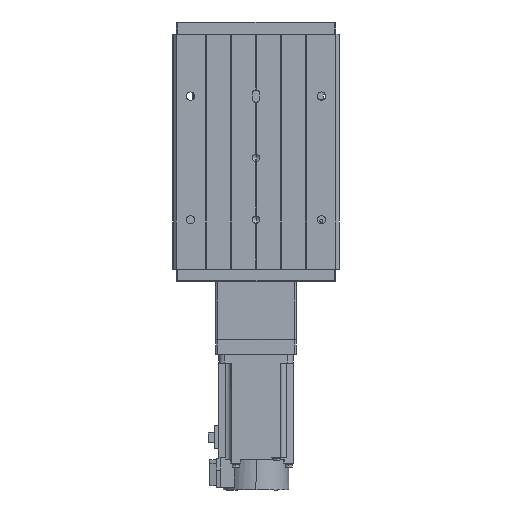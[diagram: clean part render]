
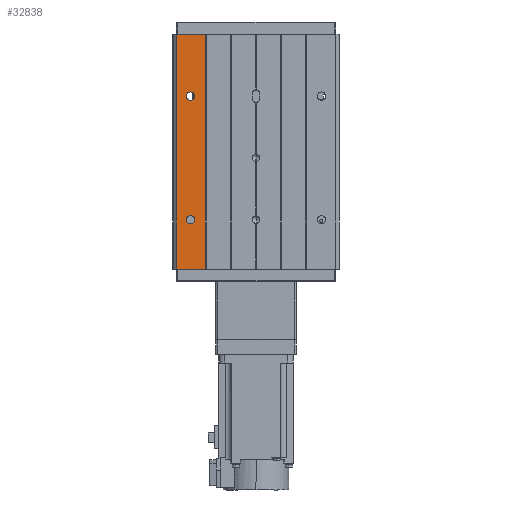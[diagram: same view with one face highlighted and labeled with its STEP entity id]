
A CAD part, front view. The second image highlights one B-rep face of the part: STEP entity #32838.
In plain terms, the highlighted planar face has unit normal (0, -1, 0).
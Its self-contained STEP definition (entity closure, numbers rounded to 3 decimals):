
#42 = AXIS2_PLACEMENT_3D ( 'NONE', #11485, #23500, #35550 ) ;
#321 = VECTOR ( 'NONE', #7917, 1000. ) ;
#728 = VERTEX_POINT ( 'NONE', #17161 ) ;
#782 = EDGE_LOOP ( 'NONE', ( #8945, #15127 ) ) ;
#783 = DIRECTION ( 'NONE',  ( 0., 0., -1. ) ) ;
#1333 = DIRECTION ( 'NONE',  ( 0., 1., 0. ) ) ;
#2249 = ORIENTED_EDGE ( 'NONE', *, *, #29483, .F. ) ;
#3244 = EDGE_CURVE ( 'NONE', #37745, #36189, #17078, .T. ) ;
#3418 = EDGE_CURVE ( 'NONE', #36189, #37745, #21479, .T. ) ;
#3698 = ORIENTED_EDGE ( 'NONE', *, *, #25279, .F. ) ;
#3978 = VECTOR ( 'NONE', #31512, 1000. ) ;
#4309 = FACE_OUTER_BOUND ( 'NONE', #24714, .T. ) ;
#4453 = AXIS2_PLACEMENT_3D ( 'NONE', #15805, #27819, #783 ) ;
#5014 = ORIENTED_EDGE ( 'NONE', *, *, #5614, .F. ) ;
#5614 = EDGE_CURVE ( 'NONE', #31740, #29929, #37765, .T. ) ;
#6199 = CARTESIAN_POINT ( 'NONE',  ( 64.5, -1., -95. ) ) ;
#7457 = LINE ( 'NONE', #19504, #3978 ) ;
#7917 = DIRECTION ( 'NONE',  ( 0., 0., -1. ) ) ;
#8654 = DIRECTION ( 'NONE',  ( 0., 0., -1. ) ) ;
#8945 = ORIENTED_EDGE ( 'NONE', *, *, #3244, .F. ) ;
#10037 = EDGE_LOOP ( 'NONE', ( #2249, #3698 ) ) ;
#10736 = CARTESIAN_POINT ( 'NONE',  ( 40., -1., 95. ) ) ;
#11485 = CARTESIAN_POINT ( 'NONE',  ( 53., -1., -45. ) ) ;
#13258 = EDGE_CURVE ( 'NONE', #26562, #728, #7457, .T. ) ;
#13405 = DIRECTION ( 'NONE',  ( -1., 0., 0. ) ) ;
#14153 = CARTESIAN_POINT ( 'NONE',  ( 53., -1., 55. ) ) ;
#14356 = ORIENTED_EDGE ( 'NONE', *, *, #37030, .T. ) ;
#15127 = ORIENTED_EDGE ( 'NONE', *, *, #3418, .F. ) ;
#15805 = CARTESIAN_POINT ( 'NONE',  ( 53., -1., -45. ) ) ;
#16359 = PLANE ( 'NONE',  #27450 ) ;
#17078 = CIRCLE ( 'NONE', #42, 3.4 ) ;
#17161 = CARTESIAN_POINT ( 'NONE',  ( 64.5, -1., -95. ) ) ;
#17908 = AXIS2_PLACEMENT_3D ( 'NONE', #23637, #35674, #8654 ) ;
#18259 = DIRECTION ( 'NONE',  ( 0., 0., 1. ) ) ;
#19348 = FACE_BOUND ( 'NONE', #10037, .T. ) ;
#19504 = CARTESIAN_POINT ( 'NONE',  ( 40., -1., -95. ) ) ;
#21166 = AXIS2_PLACEMENT_3D ( 'NONE', #14153, #26166, #38231 ) ;
#21479 = CIRCLE ( 'NONE', #4453, 3.4 ) ;
#22766 = DIRECTION ( 'NONE',  ( 1., 0., 0. ) ) ;
#22906 = LINE ( 'NONE', #34934, #321 ) ;
#23500 = DIRECTION ( 'NONE',  ( 0., -1., 0. ) ) ;
#23637 = CARTESIAN_POINT ( 'NONE',  ( 53., -1., 55. ) ) ;
#23788 = CARTESIAN_POINT ( 'NONE',  ( 53., -1., 58.4 ) ) ;
#24378 = EDGE_CURVE ( 'NONE', #31740, #26562, #22906, .T. ) ;
#24614 = ORIENTED_EDGE ( 'NONE', *, *, #13258, .T. ) ;
#24714 = EDGE_LOOP ( 'NONE', ( #24614, #14356, #5014, #32246 ) ) ;
#25279 = EDGE_CURVE ( 'NONE', #25335, #38290, #38193, .T. ) ;
#25335 = VERTEX_POINT ( 'NONE', #23788 ) ;
#26166 = DIRECTION ( 'NONE',  ( 0., -1., 0. ) ) ;
#26431 = CARTESIAN_POINT ( 'NONE',  ( 41., -1., 95. ) ) ;
#26562 = VERTEX_POINT ( 'NONE', #31272 ) ;
#27364 = VECTOR ( 'NONE', #18259, 1000. ) ;
#27450 = AXIS2_PLACEMENT_3D ( 'NONE', #28372, #1333, #13405 ) ;
#27819 = DIRECTION ( 'NONE',  ( 0., -1., 0. ) ) ;
#28372 = CARTESIAN_POINT ( 'NONE',  ( 40., -1., 95. ) ) ;
#29483 = EDGE_CURVE ( 'NONE', #38290, #25335, #34875, .T. ) ;
#29929 = VERTEX_POINT ( 'NONE', #35822 ) ;
#30266 = CARTESIAN_POINT ( 'NONE',  ( 53., -1., 51.6 ) ) ;
#31050 = VECTOR ( 'NONE', #22766, 1000. ) ;
#31272 = CARTESIAN_POINT ( 'NONE',  ( 41., -1., -95. ) ) ;
#31354 = FACE_BOUND ( 'NONE', #782, .T. ) ;
#31512 = DIRECTION ( 'NONE',  ( 1., 0., 0. ) ) ;
#31740 = VERTEX_POINT ( 'NONE', #26431 ) ;
#32246 = ORIENTED_EDGE ( 'NONE', *, *, #24378, .T. ) ;
#32610 = CARTESIAN_POINT ( 'NONE',  ( 53., -1., -41.6 ) ) ;
#32838 = ADVANCED_FACE ( 'NONE', ( #19348, #31354, #4309 ), #16359, .F. ) ;
#33231 = LINE ( 'NONE', #6199, #27364 ) ;
#34875 = CIRCLE ( 'NONE', #17908, 3.4 ) ;
#34934 = CARTESIAN_POINT ( 'NONE',  ( 41., -1., 95. ) ) ;
#35550 = DIRECTION ( 'NONE',  ( 0., 0., -1. ) ) ;
#35674 = DIRECTION ( 'NONE',  ( 0., -1., 0. ) ) ;
#35822 = CARTESIAN_POINT ( 'NONE',  ( 64.5, -1., 95. ) ) ;
#36189 = VERTEX_POINT ( 'NONE', #32610 ) ;
#37030 = EDGE_CURVE ( 'NONE', #728, #29929, #33231, .T. ) ;
#37745 = VERTEX_POINT ( 'NONE', #38479 ) ;
#37765 = LINE ( 'NONE', #10736, #31050 ) ;
#38193 = CIRCLE ( 'NONE', #21166, 3.4 ) ;
#38231 = DIRECTION ( 'NONE',  ( 0., 0., -1. ) ) ;
#38290 = VERTEX_POINT ( 'NONE', #30266 ) ;
#38479 = CARTESIAN_POINT ( 'NONE',  ( 53., -1., -48.4 ) ) ;
